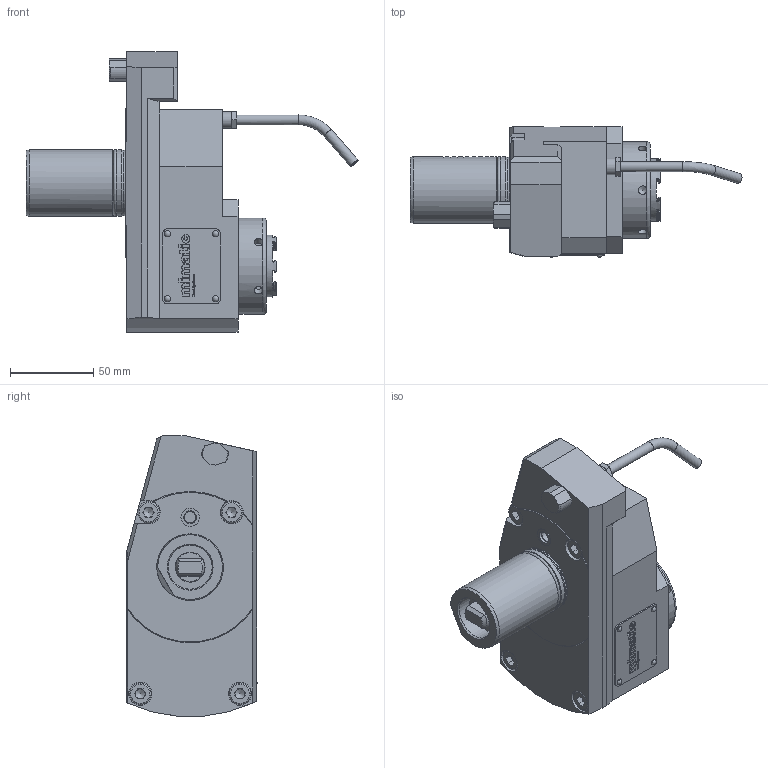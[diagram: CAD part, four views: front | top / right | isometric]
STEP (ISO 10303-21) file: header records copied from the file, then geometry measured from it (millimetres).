
FILE_DESCRIPTION(/* description */ (''),/* implementation_level */ '2;1');
FILE_NAME(/* name */ '124268',/* time_stamp */ '2020-02-25T09:54:21+01:00',/* author */ (''),/* organization */ (''),/* preprocessor_version */ 'ST-DEVELOPER v16.5',/* originating_system */ 'HiCAD 2017 2201.0 Build 268',/* authorisation */ '');
FILE_SCHEMA (('AUTOMOTIVE_DESIGN { 1 0 10303 214 1 1 1 1 }'));
Products named in the file (10): Root; Teil; ABCDEFGHIJKLMNOPQRSTUVWXYZ[\]^_`ABCDEFGHIJKLMNOP뱐趰ǝ; GEWINDE; DIN 76-M6
Assembly tree (9 placements, depth 3):
  Root
    Teil
      ABCDEFGHIJKLMNOPQRSTUVWXYZ[\]^_`ABCDEFGHIJKLMNOP뱐趰ǝ
      GEWINDE
      GEWINDE
      GEWINDE
      GEWINDE
      GEWINDE
      GEWINDE
      DIN 76-M6
Bounding box: 199.67 x 78.29 x 168.67 mm (x, y, z)
Volume: 759928.6 mm3; surface area: 90856.8 mm2
Topology: 11 solids, 18 shells, 732 faces, 1871 edges, 1230 vertices
Faces by surface type: plane 433, cylinder 194, bspline 38, cone 37, torus 26, sphere 4
Full cylindrical faces by diameter (mm): 2 x4, 2.2 x4, 4 x2, 4.773 x2, 5 x1, 5.1 x6, 6 x5, 6.466 x8, 6.8 x1, 7.65 x1, 8 x8, 8.773 x2, 9 x5, 10 x1, 11.01 x1, 11.1 x1, 13 x4, 14 x3, 18 x1, 23.5 x1, 24 x1, 26.5 x1, 27 x2, 29.4 x1, 36.5 x2, 37.5 x1, 38 x1, 38.16 x2, 39.4 x1, 40 x4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
Entity records: 49937 total; most frequent: CARTESIAN_POINT 13735, PRESENTATION_STYLE_ASSIGNMENT 3777, OVER_RIDING_STYLED_ITEM 3768, COLOUR_RGB 3346, DRAUGHTING_PRE_DEFINED_CURVE_FONT 3344, CURVE_STYLE 3344, ORIENTED_EDGE 3344, DIRECTION 3309
